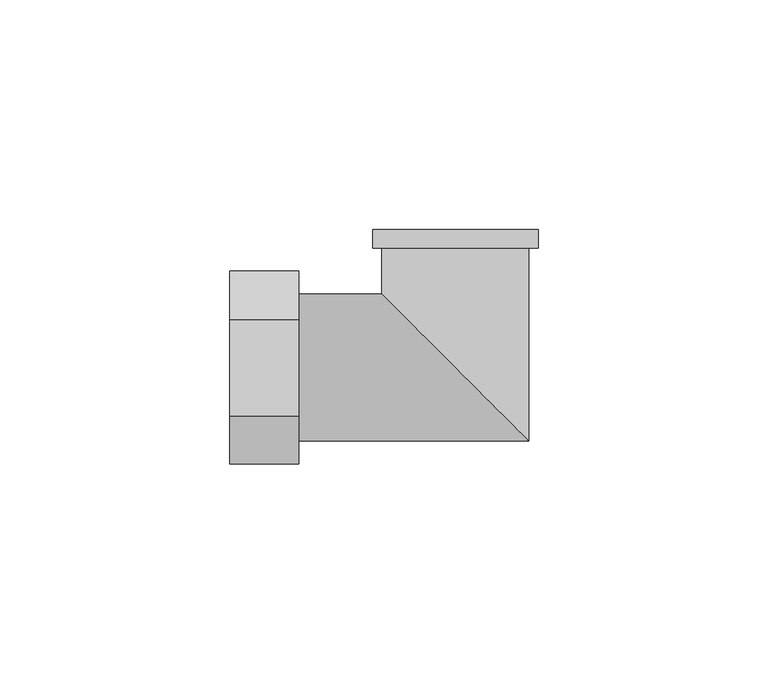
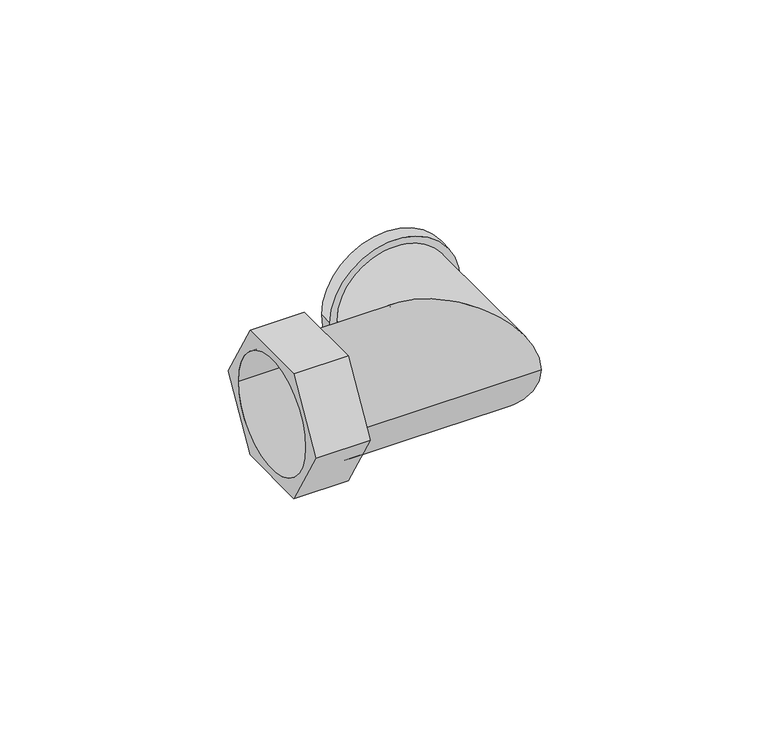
"""IFC4 building model written with IfcOpenShell, lengths in millimetres: pipe fitting geometry, БИР ПЕКС_КМП_Угольник_Резьба_Внутренняя : Угольник с внутренней резьбой_КМП."""

from ifc_helpers import new_model, si_unit, point, frame, origin, origin_2d, place, context, project, spatial, polyline, circle_curve, ellipse_curve, trimmed, segment, composite_curve, outline, extrude, source, transform, mapped, element, save
from ifc_brep_helpers import plane_surface, cylinder_surface, revolved_surface, advanced_brep


def pipe_fitting_aac3be58(model_context):
    return source(origin(), model_context, "Body", "SolidModel", [
        extrude(outline(polyline([(-10.5, -18.1865335), (-21.0, 0.0), (-10.5, 18.1865335), (10.5, 18.1865335), (21.0, 0.0), (10.5, -18.1865335), (-10.5, -18.1865335)]), holes=[composite_curve([segment(trimmed(circle_curve(origin_2d(), 16.0), [point((-16.0, 0.0))], [point((16.0, 0.0))], True, "CARTESIAN"), True, "CONTINUOUS"), segment(trimmed(circle_curve(origin_2d(), 16.0), [point((16.0, 0.0))], [point((-16.0, 0.0))], True, "CARTESIAN"), True, "CONTINUOUS")], self_intersect=False)]), frame((-49.0, 0.0, 0.0), z_axis=(1.0, 0.0, 0.0), x_axis=(0.0, 1.0, 0.0)), (0.0, 0.0, 1.0), 15.0),
        advanced_brep(
        [(-34.0, -16.0, 0.0), (-34.0, 16.0, 0.0), (-34.0, -15.5, 0.0), (-34.0, 15.5, 0.0), (16.0, -16.0, 0.0), (-16.0, 16.0, 0.0), (-18.0, 30.0, 0.0), (18.0, 30.0, 0.0), (15.5, 30.0, 0.0), (-15.5, 30.0, 0.0), (16.0, 26.0, 0.0), (-16.0, 26.0, 0.0), (-18.0, 26.0, 0.0), (18.0, 26.0, 0.0), (15.5, -15.5, 0.0), (-15.5, 15.5, 0.0), (-15.5, 26.0, 0.0), (15.5, 26.0, 0.0)],
        [
            (0, 1, circle_curve(frame((-34.0, 0.0, 0.0), z_axis=(-1.0, 0.0, 0.0), x_axis=(0.0, 1.0, 0.0)), 16.0)),
            (1, 0, circle_curve(frame((-34.0, 0.0, 0.0), z_axis=(-1.0, 0.0, 0.0), x_axis=(0.0, 1.0, 0.0)), 16.0)),
            (2, 3, circle_curve(frame((-34.0, 0.0, 0.0), z_axis=(1.0, 0.0, 0.0), x_axis=(0.0, 1.0, 0.0)), 15.5)),
            (3, 2, circle_curve(frame((-34.0, 0.0, 0.0), z_axis=(1.0, 0.0, 0.0), x_axis=(0.0, 1.0, 0.0)), 15.5)),
            (0, 4),
            (4, 5, ellipse_curve(frame((0.0, 0.0, 0.0), z_axis=(-0.7071067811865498, -0.7071067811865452, 0.0), x_axis=(-0.7071067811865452, 0.7071067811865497, 0.0)), 22.627417, 16.0)),
            (5, 1),
            (5, 4, ellipse_curve(frame((0.0, 0.0, 0.0), z_axis=(-0.7071067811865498, -0.7071067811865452, 0.0), x_axis=(-0.7071067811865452, 0.7071067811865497, 0.0)), 22.627417, 16.0)),
            (6, 7, circle_curve(frame((0.0, 30.0, 0.0), z_axis=(0.0, 1.0, 0.0), x_axis=(1.0, 0.0, 0.0)), 18.0)),
            (7, 6, circle_curve(frame((0.0, 30.0, 0.0), z_axis=(0.0, 1.0, 0.0), x_axis=(1.0, 0.0, 0.0)), 18.0)),
            (8, 9, circle_curve(frame((0.0, 30.0, 0.0), z_axis=(0.0, -1.0, 0.0), x_axis=(-1.0, 0.0, 0.0)), 15.5)),
            (9, 8, circle_curve(frame((0.0, 30.0, 0.0), z_axis=(0.0, -1.0, 0.0), x_axis=(-1.0, 0.0, 0.0)), 15.5)),
            (4, 10),
            (10, 11, circle_curve(frame((0.0, 26.0, 0.0), z_axis=(0.0, -1.0, 0.0), x_axis=(-1.0, 0.0, 0.0)), 16.0)),
            (11, 5),
            (11, 10, circle_curve(frame((0.0, 26.0, 0.0), z_axis=(0.0, -1.0, 0.0), x_axis=(-1.0, 0.0, 0.0)), 16.0)),
            (12, 13, circle_curve(frame((0.0, 26.0, 0.0), z_axis=(0.0, -1.0, 0.0), x_axis=(1.0, 0.0, 0.0)), 18.0)),
            (13, 12, circle_curve(frame((0.0, 26.0, 0.0), z_axis=(0.0, -1.0, 0.0), x_axis=(1.0, 0.0, 0.0)), 18.0)),
            (12, 6),
            (7, 13),
            (2, 14),
            (14, 15, ellipse_curve(frame((0.0, 0.0, 0.0), z_axis=(0.7071067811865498, 0.7071067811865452, 0.0), x_axis=(0.7071067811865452, -0.7071067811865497, 0.0)), 21.9203102, 15.5)),
            (15, 3),
            (15, 14, ellipse_curve(frame((0.0, 0.0, 0.0), z_axis=(0.7071067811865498, 0.7071067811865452, 0.0), x_axis=(0.7071067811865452, -0.7071067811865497, 0.0)), 21.9203102, 15.5)),
            (9, 16),
            (16, 15),
            (14, 17),
            (17, 8),
        ],
        [
            plane_surface(frame((-34.0, 0.0, 0.0), z_axis=(-1.0, 0.0, 0.0), x_axis=(0.0, 0.0, 1.0))),
            cylinder_surface(frame((-34.0, 0.0, 0.0), z_axis=(-1.0, 0.0, 0.0), x_axis=(0.0, 1.0, 0.0)), 16.0),
            plane_surface(frame((0.0, 30.0, 0.0), z_axis=(0.0, 1.0, 0.0), x_axis=(0.0, 0.0, 1.0))),
            cylinder_surface(frame((0.0, 0.0, 0.0), z_axis=(0.0, -1.0, 0.0), x_axis=(-1.0, 0.0, 0.0)), 16.0),
            plane_surface(frame((18.0, 26.0, 0.0), z_axis=(0.0, -1.0, 0.0), x_axis=(0.0, 0.0, 1.0))),
            cylinder_surface(frame((0.0, 30.0, 0.0), z_axis=(0.0, -1.0, 0.0), x_axis=(1.0, 0.0, 0.0)), 18.0),
            revolved_surface(polyline([(15.5, 15.5, 0.0), (-34.0, 15.5, 0.0)]), (-34.0, 0.0, 0.0), (1.0, 0.0, 0.0)),
            revolved_surface(polyline([(-15.5, 30.0, 0.0), (-15.5, -15.5, 0.0)]), (0.0, 0.0, 0.0), (0.0, 1.0, 0.0)),
        ],
        [
            (0, [[1, 2], [3, 4]]),
            (1, [[-1, 5, 6, 7]]),
            (1, [[-2, -7, 8, -5]]),
            (2, [[9, 10], [11, 12]]),
            (3, [[-6, 13, 14, 15]]),
            (3, [[-8, -15, 16, -13]]),
            (4, [[17, 18], [-14, -16]]),
            (5, [[-17, 19, -10, 20]]),
            (5, [[-18, -20, -9, -19]]),
            (6, [[-3, 21, 22, 23]]),
            (6, [[-4, -23, 24, -21]]),
            (7, [[-12, 25, 26, -22, 27, 28]]),
            (7, [[-11, -28, -27, -24, -26, -25]]),
        ],
    ),
    ])


if __name__ == "__main__":
    model = new_model("IFC4")
    model_context = context("Model", 3, world=origin())
    ifc_project = project(units=[si_unit("LENGTHUNIT", "METRE", prefix="MILLI")], contexts=[model_context])
    site = spatial("IfcSite", under=ifc_project)
    building = spatial("IfcBuilding", under=site)
    placement = place(None, origin())
    pipe_fitting_shape = pipe_fitting_aac3be58(model_context)
    element("IfcPipeFitting", 1, ObjectType="БИР ПЕКС_КМП_Угольник_Резьба_Внутренняя : Угольник с внутренней резьбой_КМП", at=placement, inside=building, context=model_context, shape_type="MappedRepresentation", body=[
        mapped(pipe_fitting_shape, transform((0.0, 0.0, 0.0), x_axis=(1.0, 0.0, 0.0), y_axis=(0.0, 1.0, 0.0), z_axis=(0.0, 0.0, 1.0))),
    ])
    save(model, "model.ifc")
